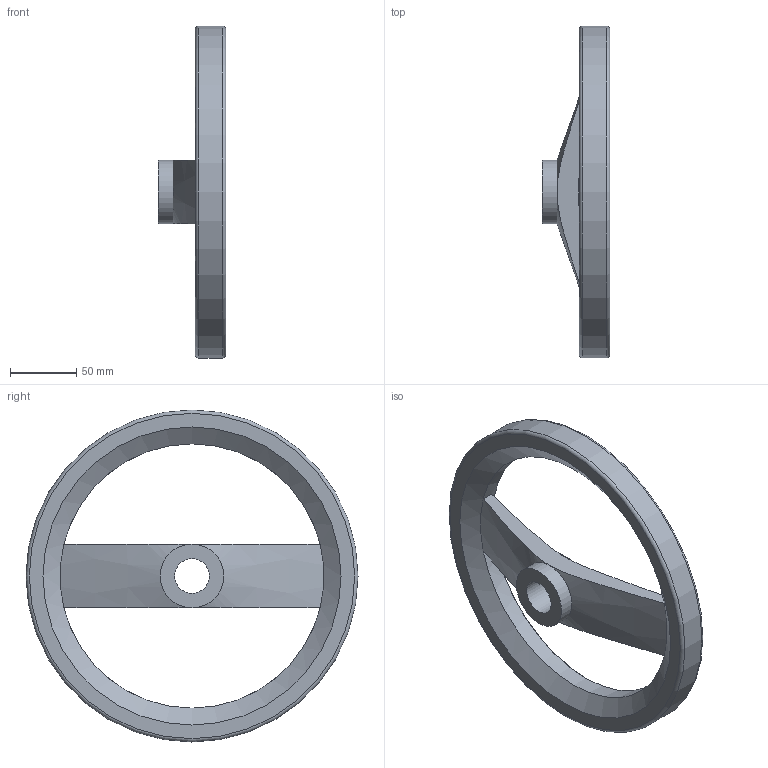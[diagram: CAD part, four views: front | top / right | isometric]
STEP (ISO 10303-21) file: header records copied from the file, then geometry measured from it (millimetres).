
FILE_DESCRIPTION( ( 'STEP AP203' ), '1' );
FILE_NAME( 'C:/Temp/Ganter_Step_05_03_2020/data/1_3/gn_324/gn_324_b/gn_324_b_a/Handwheel, matt black GN 324-250-B26-A.stp', '2020-03-05T10:32:55', ( 'License CC BY-ND 4.0' ), ( 'CADENAS' ), ' ', 'PARTsolutions', ' ' );
FILE_SCHEMA( ( 'CONFIG_CONTROL_DESIGN' ) );
Length unit declared in the file: millimetre
Products named in the file (1): _Handwheel, matt black GN 324-250-B26-A
Bounding box: 51 x 250 x 250 mm (x, y, z)
Volume: 504101 mm3; surface area: 89347.8 mm2
Topology: 1 solids, 1 shells, 19 faces, 43 edges, 24 vertices
Faces by surface type: plane 6, cone 6, cylinder 5, torus 2
Full cylindrical faces by diameter (mm): 26 x1, 48 x2, 199 x1, 250 x1
Entity records: 668 total; most frequent: CARTESIAN_POINT 232, DIRECTION 86, ORIENTED_EDGE 66, AXIS2_PLACEMENT_3D 41, EDGE_CURVE 33, EDGE_LOOP 32, FACE_OUTER_BOUND 26, VERTEX_POINT 23
